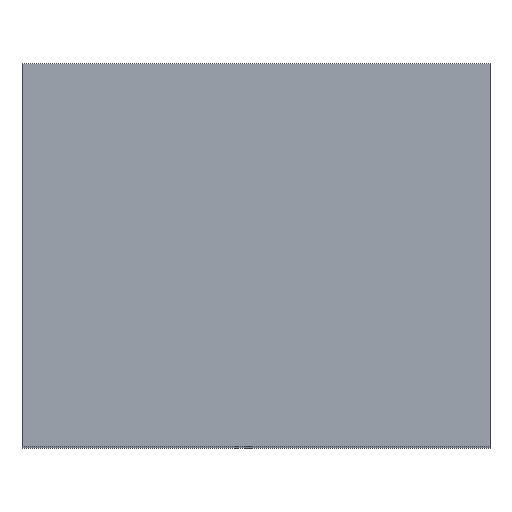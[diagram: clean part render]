
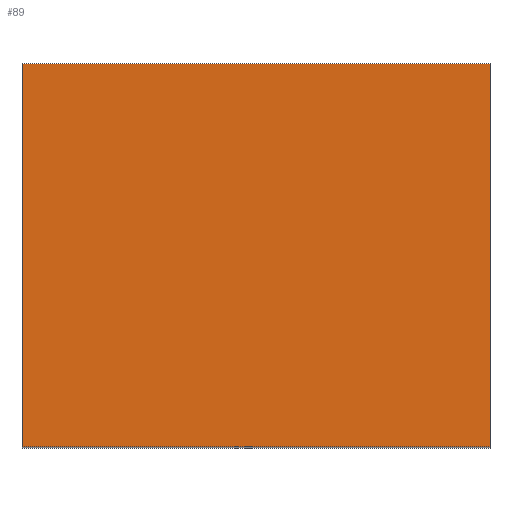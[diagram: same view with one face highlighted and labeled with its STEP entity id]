
A CAD part, top view. The second image highlights one B-rep face of the part: STEP entity #89.
In plain terms, the highlighted planar face has unit normal (0, 0, 1).
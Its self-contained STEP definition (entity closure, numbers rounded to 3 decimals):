
#6 = CARTESIAN_POINT ( 'NONE',  ( -3.45, 0., 6.4 ) ) ;
#7 = CARTESIAN_POINT ( 'NONE',  ( 3.45, 0., 6.4 ) ) ;
#19 = CARTESIAN_POINT ( 'NONE',  ( 3.45, 5.65, 6.4 ) ) ;
#28 = EDGE_LOOP ( 'NONE', ( #178, #52, #112, #66 ) ) ;
#36 = FACE_OUTER_BOUND ( 'NONE', #28, .T. ) ;
#37 = EDGE_CURVE ( 'NONE', #97, #114, #86, .T. ) ;
#41 = CARTESIAN_POINT ( 'NONE',  ( 3.45, 5.65, 6.4 ) ) ;
#46 = VECTOR ( 'NONE', #184, 1000. ) ;
#52 = ORIENTED_EDGE ( 'NONE', *, *, #73, .F. ) ;
#56 = LINE ( 'NONE', #7, #79 ) ;
#66 = ORIENTED_EDGE ( 'NONE', *, *, #142, .T. ) ;
#69 = VERTEX_POINT ( 'NONE', #6 ) ;
#71 = CARTESIAN_POINT ( 'NONE',  ( 3.45, 5.65, 6.4 ) ) ;
#73 = EDGE_CURVE ( 'NONE', #114, #176, #179, .T. ) ;
#74 = DIRECTION ( 'NONE',  ( 1., 0., 0. ) ) ;
#79 = VECTOR ( 'NONE', #74, 1000. ) ;
#86 = LINE ( 'NONE', #106, #161 ) ;
#89 = ADVANCED_FACE ( 'NONE', ( #36 ), #152, .F. ) ;
#91 = DIRECTION ( 'NONE',  ( 0., -1., 0. ) ) ;
#95 = EDGE_CURVE ( 'NONE', #69, #176, #56, .T. ) ;
#97 = VERTEX_POINT ( 'NONE', #194 ) ;
#106 = CARTESIAN_POINT ( 'NONE',  ( 3.45, 5.65, 6.4 ) ) ;
#112 = ORIENTED_EDGE ( 'NONE', *, *, #37, .F. ) ;
#114 = VERTEX_POINT ( 'NONE', #19 ) ;
#118 = DIRECTION ( 'NONE',  ( -1., 0., 0. ) ) ;
#124 = CARTESIAN_POINT ( 'NONE',  ( -3.45, 5.65, 6.4 ) ) ;
#135 = DIRECTION ( 'NONE',  ( 0., 0., -1. ) ) ;
#142 = EDGE_CURVE ( 'NONE', #97, #69, #197, .T. ) ;
#152 = PLANE ( 'NONE',  #170 ) ;
#157 = CARTESIAN_POINT ( 'NONE',  ( 3.45, 0., 6.4 ) ) ;
#161 = VECTOR ( 'NONE', #168, 1000. ) ;
#168 = DIRECTION ( 'NONE',  ( 1., 0., 0. ) ) ;
#170 = AXIS2_PLACEMENT_3D ( 'NONE', #71, #135, #118 ) ;
#175 = VECTOR ( 'NONE', #91, 1000. ) ;
#176 = VERTEX_POINT ( 'NONE', #157 ) ;
#178 = ORIENTED_EDGE ( 'NONE', *, *, #95, .T. ) ;
#179 = LINE ( 'NONE', #41, #175 ) ;
#184 = DIRECTION ( 'NONE',  ( 0., -1., 0. ) ) ;
#194 = CARTESIAN_POINT ( 'NONE',  ( -3.45, 5.65, 6.4 ) ) ;
#197 = LINE ( 'NONE', #124, #46 ) ;
